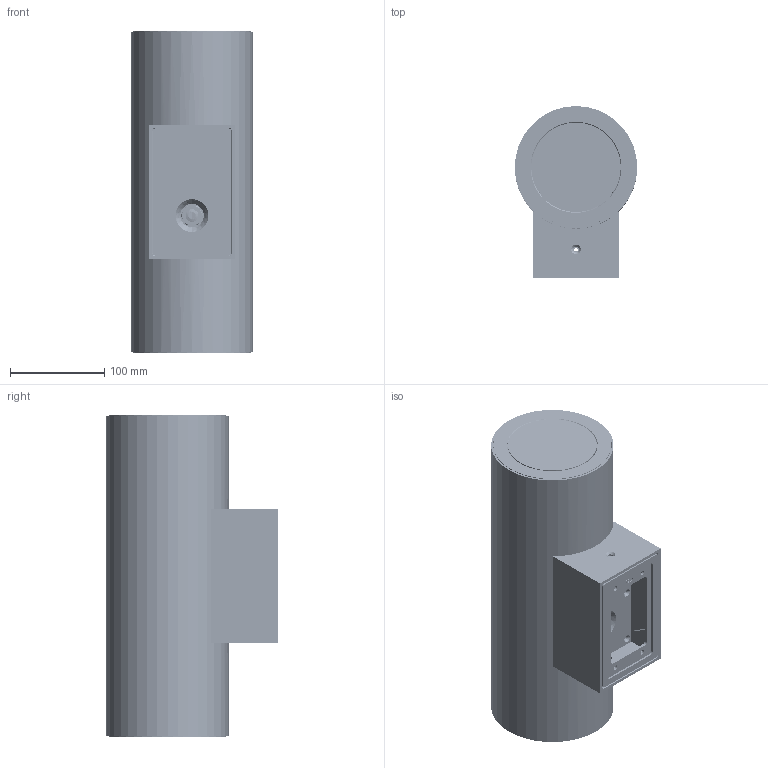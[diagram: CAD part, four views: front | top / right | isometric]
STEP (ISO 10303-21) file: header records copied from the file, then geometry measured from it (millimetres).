
FILE_DESCRIPTION((''),'2;1');
FILE_NAME('R7CH0270_ASM','2024-09-04T',('C027'),(''),'CREO PARAMETRIC BY PTC INC, 2014500','CREO PARAMETRIC BY PTC INC, 2014500','');
FILE_SCHEMA(('CONFIG_CONTROL_DESIGN'));
Length unit declared in the file: millimetre
Products named in the file (30): NEWHOUSING-T16; 0227_ASM; HEATSINK-130_27_3; HEATSINK-COVER-130_16_3; RUBBER-130_29_3; PC-130_26_3; FACE-COVER-130_27_3; LED_3_3; COB-COVER-100-130_3_3; REFLECTOR-150_1_3; LEDS-150_1_3; LED-160_ASM_2_ASM_3_ASM; HEXAGON_SOCKET_COUNTERSUNK_HEAD; SCREW-M3_6_3; HEATSINK-130-1_15_3; M3X34LZ; D130_ASM_50_ASM_3_ASM; D130_ASM_ASM_3_ASM; 7CH-GB; 7CH-1A_ASM; BACK-COVER-130_9_3; BACK-COVER-PLANT-130_2_3; 7BC015_1_10; B3BB-RUBBER_1_11; SCREW-M12_1_3; RUBBER-1_1_3; QUEEN_ASM_1_ASM_3_ASM; WALL-COVER-130_13_3; 7CH-CY_ASM; R7CH0270_ASM
Assembly tree (42 placements, depth 6):
  R7CH0270_ASM
    0227_ASM
      NEWHOUSING-T16
    7CH-1A_ASM  x2
      D130_ASM_ASM_3_ASM
        D130_ASM_50_ASM_3_ASM
          HEATSINK-130_27_3
          HEATSINK-COVER-130_16_3
          RUBBER-130_29_3
          PC-130_26_3
          FACE-COVER-130_27_3
          LED-160_ASM_2_ASM_3_ASM
            LED_3_3
            COB-COVER-100-130_3_3
            REFLECTOR-150_1_3
            LEDS-150_1_3
          HEXAGON_SOCKET_COUNTERSUNK_HEAD  x6
          SCREW-M3_6_3  x6
          HEATSINK-130-1_15_3
          M3X34LZ  x3
      7CH-GB
    7CH-CY_ASM
      BACK-COVER-130_9_3
      BACK-COVER-PLANT-130_2_3
      QUEEN_ASM_1_ASM_3_ASM
        7BC015_1_10
        B3BB-RUBBER_1_11
        SCREW-M12_1_3
        RUBBER-1_1_3
      WALL-COVER-130_13_3
Bounding box: 130 x 182 x 341 mm (x, y, z)
Volume: 1215285.1 mm3; surface area: 852846.6 mm2
Topology: 60 solids, 60 shells, 4778 faces, 11301 edges, 6725 vertices
Faces by surface type: cone 1715, cylinder 1592, plane 1252, bspline 114, torus 102, sphere 2, extrusion 1
Entity records: 56829 total; most frequent: CARTESIAN_POINT 18404, DIRECTION 8078, ORIENTED_EDGE 7864, EDGE_CURVE 3932, AXIS2_PLACEMENT_3D 2926, VERTEX_POINT 2553, VECTOR 2226, LINE 2225
